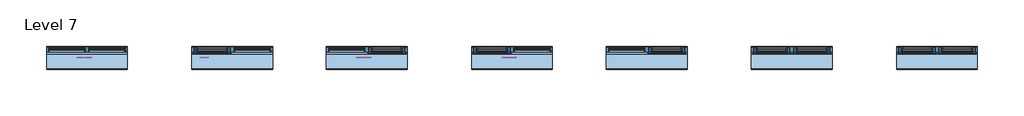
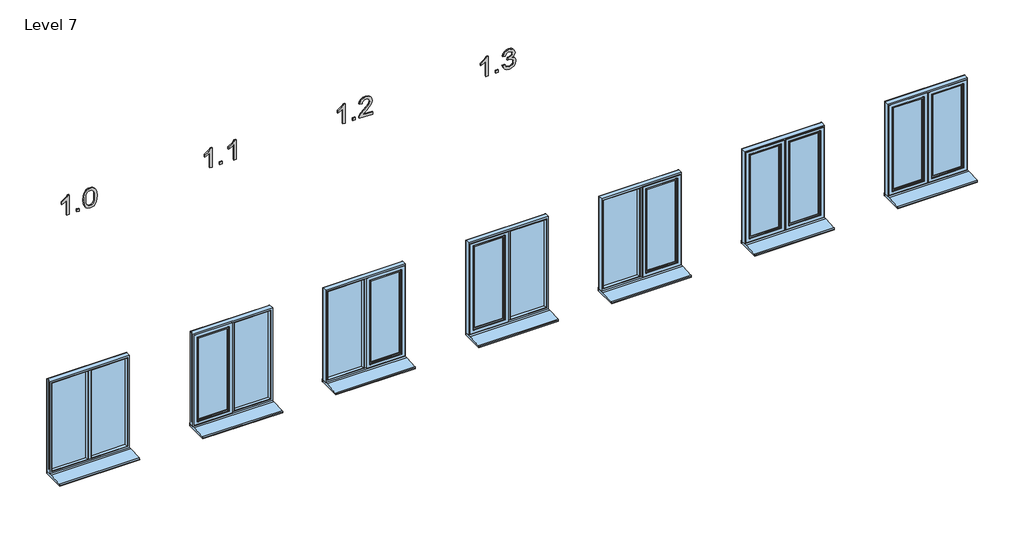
# One storey: 7 windows, 4 proxies.
"""IFC4 building model written with IfcOpenShell, lengths in millimetres."""

from ifc_helpers import new_model, si_unit, frame, origin, place, context, project, spatial, polyline, outline, extrude, transform, mapped, element, save
from components import standard_2_d713537e, standard_2_8d0ce72f, standard_2_e208d825, standard_2_2931db33

model = new_model("IFC4")

# Units and contexts
model_context = context("Model", 3, world=origin())
ifc_project = project(units=[si_unit("LENGTHUNIT", "METRE", prefix="MILLI")], contexts=[model_context])

# Site, building, storey
site = spatial("IfcSite", under=ifc_project)
building = spatial("IfcBuilding", under=site)
storey = spatial("IfcBuildingStorey", under=building, Name="Level 7", Elevation=18000.0)

# Proxies
placement = place(None, origin())
element("IfcBuildingElementProxy", 1, Name="200mm Arial", ObjectType="200mm Arial", at=placement, inside=storey, context=model_context, shape_type="SweptSolid", body=[
    extrude(outline(polyline([(20968.1392597, -171054.3903213), (21169.05188, -171054.3903213), (21169.05188, -171070.5771291), (21155.8939673, -171079.4492165), (21142.3191217, -171092.9198289), (21118.8237249, -171129.7325539), (21095.0830735, -171129.7325539), (21107.7627396, -171103.2941012), (21124.7098368, -171079.5043988), (20968.1392597, -171079.5043988), (20968.1392597, -171054.3903213)])), frame((0.0, 24202.6264647, 0.0), z_axis=(0.0, 1.0, 0.0), x_axis=(0.0, 0.0, 1.0)), (0.0, 0.0, 1.0), 10.0),
    extrude(outline(polyline([(-170957.0732708, 24202.6264647), (-170982.1873484, 24202.6264647), (-170982.1873484, 24212.6264647), (-170957.0732708, 24212.6264647), (-170957.0732708, 24202.6264647)])), frame((0.0, 0.0, 20968.1392597), z_axis=(0.0, 0.0, 1.0), x_axis=(1.0, 0.0, 0.0)), (0.0, 0.0, 1.0), 25.1140775),
    extrude(outline(polyline([(21066.9768891, -170916.2628949), (21018.1098974, -170911.2596997), (20999.2590108, -170905.0057058), (20984.1298637, -170896.2501143), (20969.7824659, -170876.4335375), (20965.0, -170850.3384413), (20967.7529836, -170830.0374865), (20976.0119344, -170813.5747673), (20989.8688229, -170800.8399189), (21009.4156196, -170791.7225768), (21035.0018123, -170786.241135), (21066.9768891, -170784.4139878), (21114.1884118, -170788.9757245), (21143.913277, -170800.7479484), (21154.6738253, -170809.4177007), (21162.5771569, -170821.0059836), (21167.4331992, -170834.8628721), (21169.05188, -170850.3384413), (21166.3172905, -170870.5290315), (21158.113522, -170886.9549626), (21144.3118158, -170899.7082051), (21124.7834132, -170908.8807295), (21099.1359068, -170914.4173535), (21066.9768891, -170916.2628949)]), holes=[polyline([(21067.02594, -170891.1488173), (21106.0214315, -170888.1076595), (21130.4978469, -170878.984186), (21140.5778136, -170866.3535708), (21143.9378025, -170850.6327469), (21140.1240924, -170834.0290062), (21128.6829624, -170820.9078817), (21105.6412868, -170812.3730194), (21067.02594, -170809.5280653), (21027.5828587, -170812.4711213), (21004.70673, -170821.3002892), (20993.7622407, -170834.4459391), (20990.1140775, -170850.3384413), (20993.7499779, -170866.2309435), (21004.6576791, -170879.3765935), (21027.5215451, -170888.2057614), (21067.02594, -170891.1488173)])]), frame((0.0, 24202.6264647, 0.0), z_axis=(0.0, 1.0, 0.0), x_axis=(0.0, 0.0, 1.0)), (0.0, 0.0, 1.0), 10.0),
])
element("IfcBuildingElementProxy", 2, Name="200mm Arial", ObjectType="200mm Arial", at=placement, inside=storey, context=model_context, shape_type="SweptSolid", body=[
    extrude(outline(polyline([(20968.1392597, -168354.3903213), (21169.05188, -168354.3903213), (21169.05188, -168370.5771291), (21155.8939673, -168379.4492165), (21142.3191217, -168392.9198289), (21118.8237249, -168429.7325539), (21095.0830735, -168429.7325539), (21107.7627396, -168403.2941012), (21124.7098368, -168379.5043988), (20968.1392597, -168379.5043988), (20968.1392597, -168354.3903213)])), frame((0.0, 24202.6264647, 0.0), z_axis=(0.0, 1.0, 0.0), x_axis=(0.0, 0.0, 1.0)), (0.0, 0.0, 1.0), 10.0),
    extrude(outline(polyline([(-168257.0732708, 24202.6264647), (-168282.1873484, 24202.6264647), (-168282.1873484, 24212.6264647), (-168257.0732708, 24212.6264647), (-168257.0732708, 24202.6264647)])), frame((0.0, 0.0, 20968.1392597), z_axis=(0.0, 0.0, 1.0), x_axis=(1.0, 0.0, 0.0)), (0.0, 0.0, 1.0), 25.1140775),
    extrude(outline(polyline([(20993.2533372, -168087.5532475), (20993.2533372, -168186.1946731), (21006.0311052, -168174.8639077), (21030.1886895, -168145.9729083), (21064.5979188, -168109.9940492), (21089.221487, -168095.156142), (21113.0357149, -168090.6925072), (21134.9369563, -168094.8311796), (21152.9631741, -168107.2471969), (21165.0297035, -168126.7633368), (21169.05188, -168152.2023768), (21165.4343737, -168177.4574757), (21154.5818548, -168197.0104038), (21136.8376799, -168210.1744478), (21112.5452055, -168216.2628949), (21109.4059458, -168191.1488173), (21123.8391828, -168188.4326219), (21134.765278, -168180.5783413), (21141.6446714, -168168.4075786), (21143.9378025, -168152.741937), (21141.5894891, -168137.8243221), (21134.5445488, -168126.0337042), (21124.0905688, -168118.3633646), (21111.5151359, -168115.8065847), (21097.4865692, -168118.5166487), (21083.065595, -168126.6468408), (21041.2251494, -168170.0078653), (21012.1134208, -168201.4495132), (20985.4542389, -168216.7043532), (20968.1392597, -168219.4021545), (20968.1392597, -168087.5532475), (20993.2533372, -168087.5532475)])), frame((0.0, 24202.6264647, 0.0), z_axis=(0.0, 1.0, 0.0), x_axis=(0.0, 0.0, 1.0)), (0.0, 0.0, 1.0), 10.0),
])
element("IfcBuildingElementProxy", 3, Name="200mm Arial", ObjectType="200mm Arial", at=placement, inside=storey, context=model_context, shape_type="SweptSolid", body=[
    extrude(outline(polyline([(20968.1392597, -166954.3903213), (21169.05188, -166954.3903213), (21169.05188, -166970.5771291), (21155.8939673, -166979.4492165), (21142.3191217, -166992.9198289), (21118.8237249, -167029.7325539), (21095.0830735, -167029.7325539), (21107.7627396, -167003.2941012), (21124.7098368, -166979.5043988), (20968.1392597, -166979.5043988), (20968.1392597, -166954.3903213)])), frame((0.0, 24202.6264647, 0.0), z_axis=(0.0, 1.0, 0.0), x_axis=(0.0, 0.0, 1.0)), (0.0, 0.0, 1.0), 10.0),
    extrude(outline(polyline([(-166857.0732708, 24202.6264647), (-166882.1873484, 24202.6264647), (-166882.1873484, 24212.6264647), (-166857.0732708, 24212.6264647), (-166857.0732708, 24202.6264647)])), frame((0.0, 0.0, 20968.1392597), z_axis=(0.0, 0.0, 1.0), x_axis=(1.0, 0.0, 0.0)), (0.0, 0.0, 1.0), 25.1140775),
    extrude(outline(polyline([(21021.5066745, -166816.2628949), (20998.8083554, -166810.0456891), (20980.7453494, -166796.2991652), (20968.9363373, -166776.5316394), (20965.0, -166752.2514277), (20969.6107877, -166725.4083048), (20983.4431507, -166703.6419534), (21003.8973896, -166689.2209792), (21028.373805, -166684.4139878), (21046.3509719, -166686.8174835), (21061.0417262, -166694.0279706), (21071.8574569, -166705.6775671), (21078.2095526, -166721.398391), (21085.456828, -166709.4299635), (21094.8378188, -166700.7969993), (21105.8497532, -166695.573075), (21117.9898591, -166693.8317669), (21131.0190131, -166695.6650455), (21143.3246658, -166701.1648813), (21154.0055064, -166710.1289392), (21162.1602239, -166722.3548842), (21167.328966, -166736.8555662), (21169.05188, -166752.6438352), (21165.557001, -166774.5696021), (21155.0723642, -166792.5712944), (21138.2356315, -166805.7292071), (21115.6844652, -166813.1236352), (21112.5452055, -166788.0095576), (21126.2794667, -166783.5581855), (21136.0896532, -166775.6977735), (21141.9757651, -166764.9310938), (21143.9378025, -166751.7609184), (21141.9941592, -166738.6152684), (21136.1632296, -166728.1183688), (21127.3647186, -166721.2389755), (21116.5183311, -166718.9458444), (21103.4953085, -166722.1096296), (21094.3473095, -166731.600985), (21088.9394442, -166745.0532033), (21087.1368224, -166760.0995769), (21087.431128, -166764.1217534), (21062.3170505, -166766.9176566), (21065.0639027, -166749.3083717), (21062.4948601, -166733.5139714), (21054.7877323, -166720.7607289), (21043.1565299, -166712.3362312), (21028.8152634, -166709.5280653), (21013.7075762, -166712.3607567), (21001.2486393, -166720.8588308), (20992.897718, -166734.1516335), (20990.1140775, -166751.3685109), (20992.1374285, -166766.0408711), (20998.2074814, -166777.2919288), (21008.8637966, -166785.5263542), (21024.6459342, -166791.1488173), (21021.5066745, -166816.2628949)])), frame((0.0, 24202.6264647, 0.0), z_axis=(0.0, 1.0, 0.0), x_axis=(0.0, 0.0, 1.0)), (0.0, 0.0, 1.0), 10.0),
])
element("IfcBuildingElementProxy", 4, Name="200mm Arial", ObjectType="200mm Arial", at=placement, inside=storey, context=model_context, shape_type="SweptSolid", body=[
    extrude(outline(polyline([(20968.1392597, -169654.3903213), (21169.05188, -169654.3903213), (21169.05188, -169670.5771291), (21155.8939673, -169679.4492165), (21142.3191217, -169692.9198289), (21118.8237249, -169729.7325539), (21095.0830735, -169729.7325539), (21107.7627396, -169703.2941012), (21124.7098368, -169679.5043988), (20968.1392597, -169679.5043988), (20968.1392597, -169654.3903213)])), frame((0.0, 24202.6264647, 0.0), z_axis=(0.0, 1.0, 0.0), x_axis=(0.0, 0.0, 1.0)), (0.0, 0.0, 1.0), 10.0),
    extrude(outline(polyline([(-169557.0732708, 24202.6264647), (-169582.1873484, 24202.6264647), (-169582.1873484, 24212.6264647), (-169557.0732708, 24212.6264647), (-169557.0732708, 24202.6264647)])), frame((0.0, 0.0, 20968.1392597), z_axis=(0.0, 0.0, 1.0), x_axis=(1.0, 0.0, 0.0)), (0.0, 0.0, 1.0), 25.1140775),
    extrude(outline(polyline([(20968.1392597, -169422.0851041), (21169.05188, -169422.0851041), (21169.05188, -169438.2719119), (21155.8939673, -169447.1439993), (21142.3191217, -169460.6146117), (21118.8237249, -169497.4273367), (21095.0830735, -169497.4273367), (21107.7627396, -169470.988884), (21124.7098368, -169447.1991816), (20968.1392597, -169447.1991816), (20968.1392597, -169422.0851041)])), frame((0.0, 24202.6264647, 0.0), z_axis=(0.0, 1.0, 0.0), x_axis=(0.0, 0.0, 1.0)), (0.0, 0.0, 1.0), 10.0),
])

# Windows
standard_2_shape = standard_2_d713537e(model_context)
element("IfcWindow", 5, ObjectType="SMARTS_AlithermHeritage : Standard 2", at=placement, inside=storey, context=model_context, shape_type="MappedRepresentation", body=[
    mapped(standard_2_shape, transform((-164023.3801149, 24355.9063079, 17668.8184812), x_axis=(-1.0, 0.0, 0.0), y_axis=(0.0, -1.0, 0.0), z_axis=(0.0, 0.0, 1.0))),
])
element("IfcWindow", 6, ObjectType="SMARTS_AlithermHeritage : Standard 2", at=placement, inside=storey, context=model_context, shape_type="MappedRepresentation", body=[
    mapped(standard_2_shape, transform((-162623.3801149, 24355.9063079, 17668.8184812), x_axis=(-1.0, 0.0, 0.0), y_axis=(0.0, -1.0, 0.0), z_axis=(0.0, 0.0, 1.0))),
])
standard_2_2_shape = standard_2_8d0ce72f(model_context)
element("IfcWindow", 7, ObjectType="SMARTS_AlithermHeritage : Standard 2", at=placement, inside=storey, context=model_context, shape_type="MappedRepresentation", body=[
    mapped(standard_2_2_shape, transform((-165423.3801149, 24355.9063079, 17668.8184812), x_axis=(-1.0, 0.0, 0.0), y_axis=(0.0, -1.0, 0.0), z_axis=(0.0, 0.0, 1.0))),
])
standard_2_3_shape = standard_2_e208d825(model_context)
element("IfcWindow", 8, ObjectType="SMARTS_AlithermHeritage : Standard 2", at=placement, inside=storey, context=model_context, shape_type="MappedRepresentation", body=[
    mapped(standard_2_3_shape, transform((-166723.3801149, 24355.9063079, 17668.8184812), x_axis=(-1.0, 0.0, 0.0), y_axis=(0.0, -1.0, 0.0), z_axis=(0.0, 0.0, 1.0))),
])
element("IfcWindow", 9, ObjectType="SMARTS_AlithermHeritage : Standard 2", at=placement, inside=storey, context=model_context, shape_type="MappedRepresentation", body=[
    mapped(standard_2_2_shape, transform((-168123.3801149, 24355.9063079, 17668.8184812), x_axis=(-1.0, 0.0, 0.0), y_axis=(0.0, -1.0, 0.0), z_axis=(0.0, 0.0, 1.0))),
])
element("IfcWindow", 10, ObjectType="SMARTS_AlithermHeritage : Standard 2", at=placement, inside=storey, context=model_context, shape_type="MappedRepresentation", body=[
    mapped(standard_2_3_shape, transform((-169423.3801149, 24355.9063079, 17668.8184812), x_axis=(-1.0, 0.0, 0.0), y_axis=(0.0, -1.0, 0.0), z_axis=(0.0, 0.0, 1.0))),
])
standard_2_4_shape = standard_2_2931db33(model_context)
element("IfcWindow", 11, ObjectType="SMARTS_AlithermHeritage : Standard 2", at=placement, inside=storey, context=model_context, shape_type="MappedRepresentation", body=[
    mapped(standard_2_4_shape, transform((-170823.3801149, 24355.9063079, 17668.8184812), x_axis=(-1.0, 0.0, 0.0), y_axis=(0.0, -1.0, 0.0), z_axis=(0.0, 0.0, 1.0))),
])

save(model, "model.ifc")
